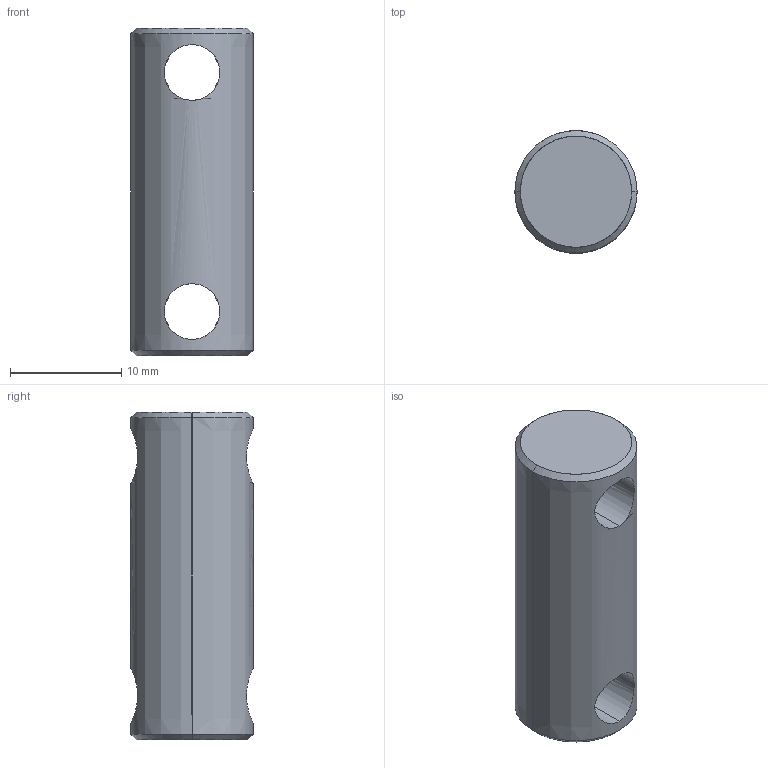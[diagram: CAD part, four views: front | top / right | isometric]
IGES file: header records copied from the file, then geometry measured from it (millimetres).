
Start section: SolidWorks IGES file using analytic representation for surfaces
Global section: file name: C:\Documents and Settings\Administrator\デスクトップ\指定保存後3回目\SolidWorks\SF\SF30\Nut\SFJ-250S.IGS; native system: SolidWorks 2006 by SolidWorks Corporation; preprocessor: SolidWorks 2006 by SolidWorks Corporation; author: Administrator; date: 061213.103005; units: millimetre
Bounding box: 11 x 11 x 29.5 mm (x, y, z)
Surface area: 1434.8 mm2 (no closed solid volume)
Topology: 0 solids, 0 shells, 12 faces, 396 edges, 422 vertices
Faces by surface type: revolution 10, bspline 2
